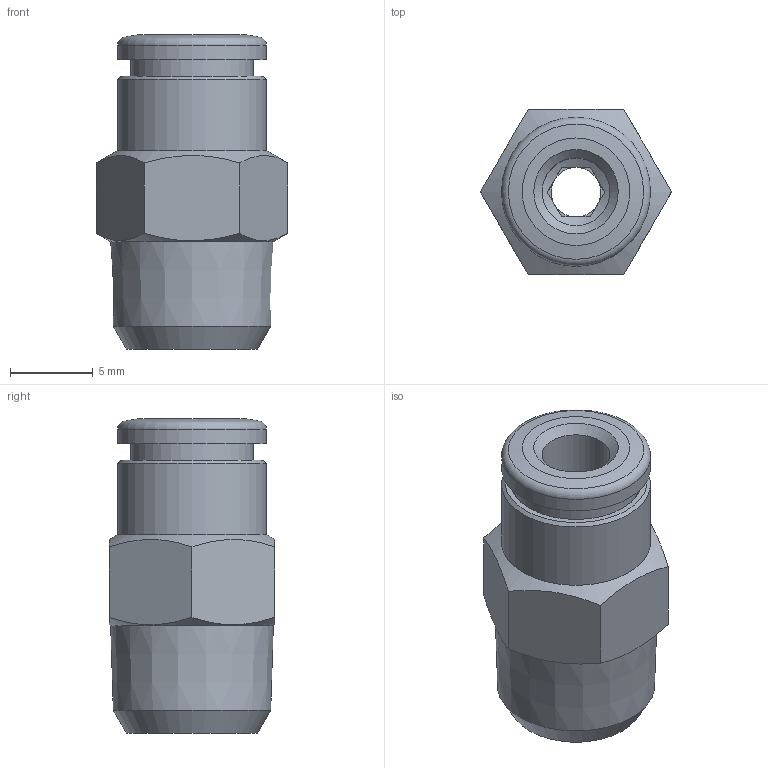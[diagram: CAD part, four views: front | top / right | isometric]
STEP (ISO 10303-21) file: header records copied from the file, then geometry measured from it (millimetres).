
FILE_DESCRIPTION(/* description */ (''),/* implementation_level */ '2;1');
FILE_NAME(/* name */ '200152-ES_STX01K_4_R18_28.04.16',/* time_stamp */ '2016-04-28T11:55:56+02:00',/* author */ (''),/* organization */ (''),/* preprocessor_version */ 'ST-DEVELOPER v14',/* originating_system */ 'HiCAD 2013 1802.4 Build 509',/* authorisation */ '');
FILE_SCHEMA (('AUTOMOTIVE_DESIGN { 1 0 10303 214 1 1 1 1 }'));
Length unit declared in the file: millimetre
Products named in the file (3): Root; R200152-ES-N; DR4-1_NEU
Assembly tree (2 placements, depth 2):
  Root
    R200152-ES-N
    DR4-1_NEU
Bounding box: 11.55 x 10 x 19 mm (x, y, z)
Volume: 971.3 mm3; surface area: 1288.4 mm2
Topology: 2 solids, 2 shells, 47 faces, 102 edges, 61 vertices
Faces by surface type: plane 24, cone 13, cylinder 9, torus 1
Full cylindrical faces by diameter (mm): 3 x1, 4.1 x2, 6.4 x1, 7.3 x1, 7.4 x1, 7.6 x1, 9 x2
Entity records: 1945 total; most frequent: DIRECTION 228, CARTESIAN_POINT 183, PRESENTATION_STYLE_ASSIGNMENT 152, COLOUR_RGB 151, DRAUGHTING_PRE_DEFINED_CURVE_FONT 150, CURVE_STYLE 150, OVER_RIDING_STYLED_ITEM 150, ORIENTED_EDGE 150
